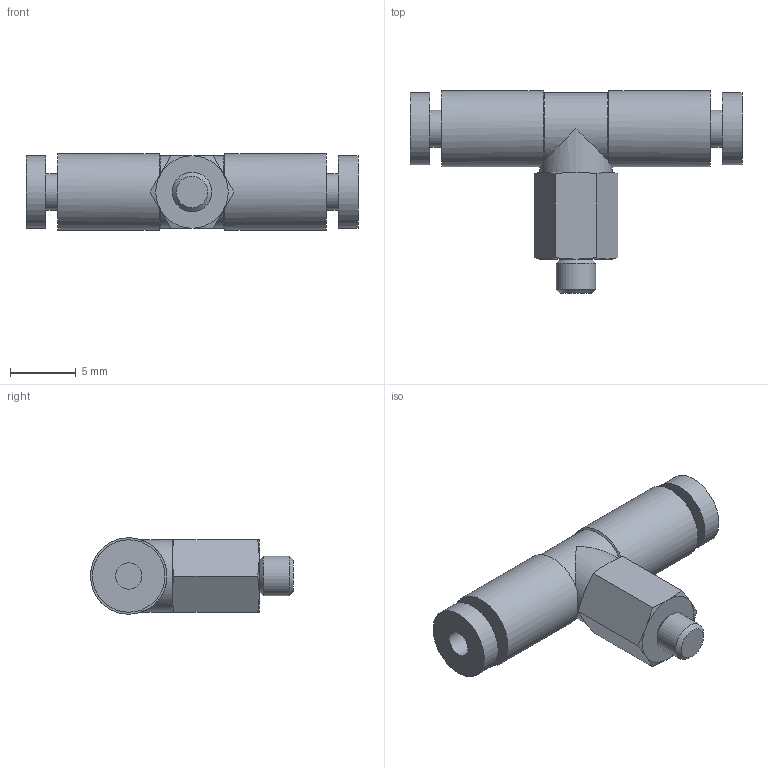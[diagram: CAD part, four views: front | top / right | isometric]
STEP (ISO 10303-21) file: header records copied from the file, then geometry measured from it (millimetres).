
FILE_DESCRIPTION(/* description */ ('STEP AP214'),/* implementation_level */ '2;1');
FILE_NAME(/* name */ 'KQ2T02-M3G',/* time_stamp */ '2023-03-09T07:31:51+01:00',/* author */ ('License CC BY-ND 4.0'),/* organization */ ('CADENAS'),/* preprocessor_version */ 'ST-DEVELOPER v18.102',/* originating_system */ 'PARTsolutions',/* authorisation */ ' ');
FILE_SCHEMA (('AUTOMOTIVE_DESIGN {1 0 10303 214 3 1 1}'));
Length unit declared in the file: millimetre
Products named in the file (1): KQ2T02-M3G
Bounding box: 25.2 x 15.4 x 5.8 mm (x, y, z)
Volume: 746.6 mm3; surface area: 885 mm2
Topology: 1 solids, 1 shells, 43 faces, 88 edges, 54 vertices
Faces by surface type: cone 16, plane 16, cylinder 11
Full cylindrical faces by diameter (mm): 2 x2, 2.8 x2, 3 x1, 5.5 x3, 5.8 x2
Entity records: 1112 total; most frequent: CARTESIAN_POINT 262, DIRECTION 170, ORIENTED_EDGE 148, AXIS2_PLACEMENT_3D 82, EDGE_CURVE 74, EDGE_LOOP 62, FACE_BOUND 62, VERTEX_POINT 52
